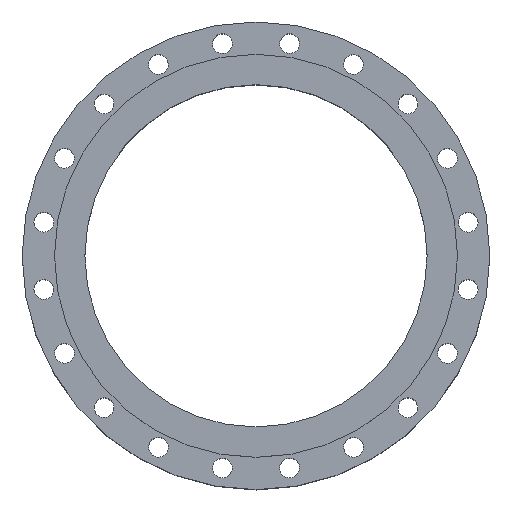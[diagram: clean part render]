
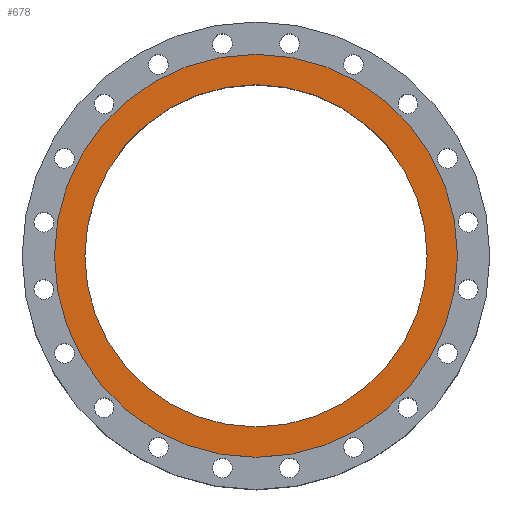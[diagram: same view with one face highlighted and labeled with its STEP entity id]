
A CAD part, top view. The second image highlights one B-rep face of the part: STEP entity #678.
In plain terms, the highlighted planar face has unit normal (0, 0, 1).
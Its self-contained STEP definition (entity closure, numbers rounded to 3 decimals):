
#678=ADVANCED_FACE('',(#1503,#1505),#1507,.T.);
#1503=FACE_BOUND('',#1504,.T.);
#1504=EDGE_LOOP('',(#1836));
#1505=FACE_BOUND('',#1506,.T.);
#1506=EDGE_LOOP('',(#1837));
#1507=PLANE('',#1508);
#1508=AXIS2_PLACEMENT_3D('',#1509,#1510,#1511);
#1509=CARTESIAN_POINT('',(0.,0.,132.5));
#1510=DIRECTION('',(0.,0.,1.));
#1511=DIRECTION('',(0.,1.,0.));
#1836=ORIENTED_EDGE('',*,*,#1984,.F.);
#1837=ORIENTED_EDGE('',*,*,#1986,.T.);
#1984=EDGE_CURVE('',#2246,#2246,#2247,.T.);
#1986=EDGE_CURVE('',#2250,#2250,#2251,.T.);
#2246=VERTEX_POINT('',#3797);
#2247=CIRCLE('',#3798,265.);
#2250=VERTEX_POINT('',#3807);
#2251=CIRCLE('',#3808,225.);
#3797=CARTESIAN_POINT('',(0.,265.,132.5));
#3798=AXIS2_PLACEMENT_3D('',#3799,#3800,#3801);
#3799=CARTESIAN_POINT('',(0.,0.,132.5));
#3800=DIRECTION('',(0.,0.,-1.));
#3801=DIRECTION('',(0.,1.,0.));
#3807=CARTESIAN_POINT('',(0.,225.,132.5));
#3808=AXIS2_PLACEMENT_3D('',#3809,#3810,#3811);
#3809=CARTESIAN_POINT('',(0.,0.,132.5));
#3810=DIRECTION('',(0.,0.,-1.));
#3811=DIRECTION('',(0.,1.,0.));
